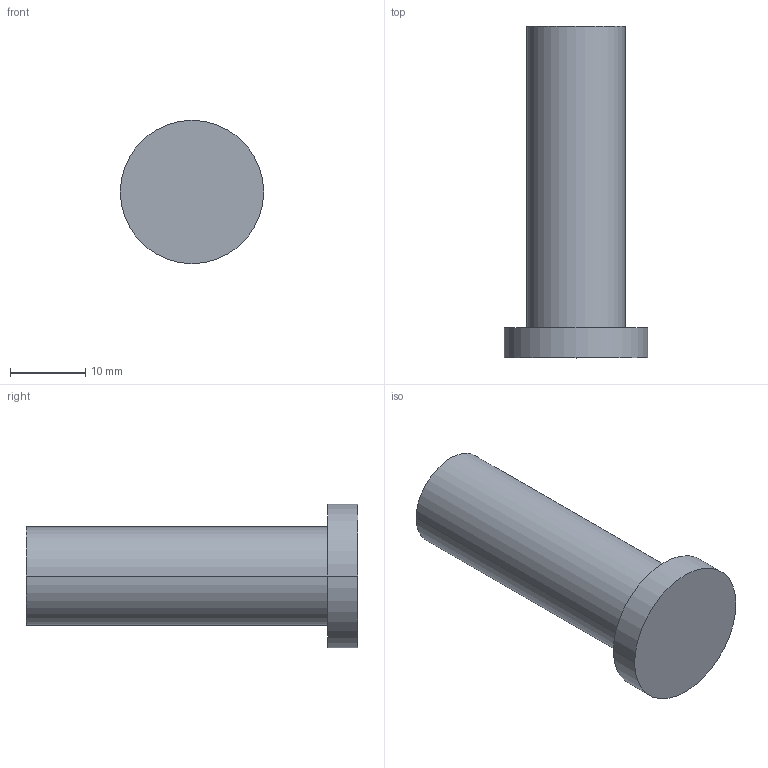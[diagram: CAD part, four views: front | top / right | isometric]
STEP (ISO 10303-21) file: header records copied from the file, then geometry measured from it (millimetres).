
FILE_DESCRIPTION((''),'2;1');
FILE_NAME('GC3311-0000_ASM','2021-11-25T08:15:08',('Administrator'),(''),'CREO PARAMETRIC BY PTC INC, 2019471','CREO PARAMETRIC BY PTC INC, 2019471','');
FILE_SCHEMA(('CONFIG_CONTROL_DESIGN'));
Length unit declared in the file: millimetre
Products named in the file (5): GC52-1201; GC52-1202; M4X10-0; 1018000; GC3311-0000_ASM
Assembly tree (4 placements, depth 2):
  GC3311-0000_ASM
    GC52-1201
    GC52-1202
    M4X10-0
    1018000
Bounding box: 19 x 44 x 19 mm (x, y, z)
Volume: 4871.8 mm3; surface area: 5048.6 mm2
Topology: 4 solids, 7 shells, 160 faces, 427 edges, 278 vertices
Faces by surface type: cylinder 98, bspline 26, plane 18, cone 18
Entity records: 16205 total; most frequent: CARTESIAN_POINT 12526, ORIENTED_EDGE 838, DIRECTION 568, EDGE_CURVE 425, VERTEX_POINT 278, B_SPLINE_CURVE_WITH_KNOTS 211, AXIS2_PLACEMENT_3D 207, EDGE_LOOP 169
